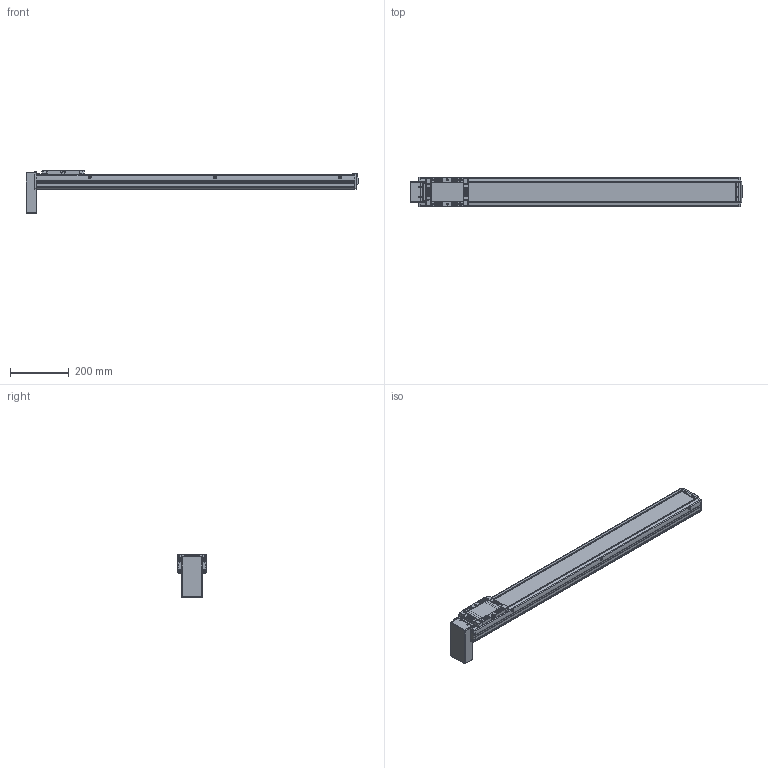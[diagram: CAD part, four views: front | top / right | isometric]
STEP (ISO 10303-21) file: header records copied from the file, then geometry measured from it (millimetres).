
FILE_DESCRIPTION(('STEP AP214'),'1');
FILE_NAME('Z:/Web/3D/SAN100/SAN100 양산용 (STEP)/SAN100ㅁㅁ-900PB.stp','2013-04-30T04:43:30',(' '),(' '),'Spatial InterOp 3D',' ',' ');
FILE_SCHEMA(('automotive_design'));
Length unit declared in the file: millimetre
Products named in the file (39): BTCV-SAN100; M3.0 x 6.0; 스크루 : Round - M4.0 x 10.0; FRCV-SAN100; SUS COVER; SFX-SAN100; RRCV-SAN100; 스크루 : Round - M3.0 x 6.0; FRBL-SAN100; SLBL-SAN100; SLCV-SAN100; 스크루 : Countersunk - M3.0 x 6.0; BASE; 스크루 : Round - M5.0 x 6.0
Bounding box: 1126.5 x 100 x 148.36 mm (x, y, z)
Volume: 3229086.2 mm3; surface area: 738979.4 mm2
Topology: 39 solids, 44 shells, 2164 faces, 5620 edges, 3609 vertices
Faces by surface type: plane 1045, cylinder 811, cone 210, sphere 56, torus 30, bspline 12
Entity records: 85104 total; most frequent: CARTESIAN_POINT 12774, DIRECTION 11937, ORIENTED_EDGE 11036, EDGE_CURVE 5518, AXIS2_PLACEMENT_3D 4345, VERTEX_POINT 3609, LINE 3247, VECTOR 3247
